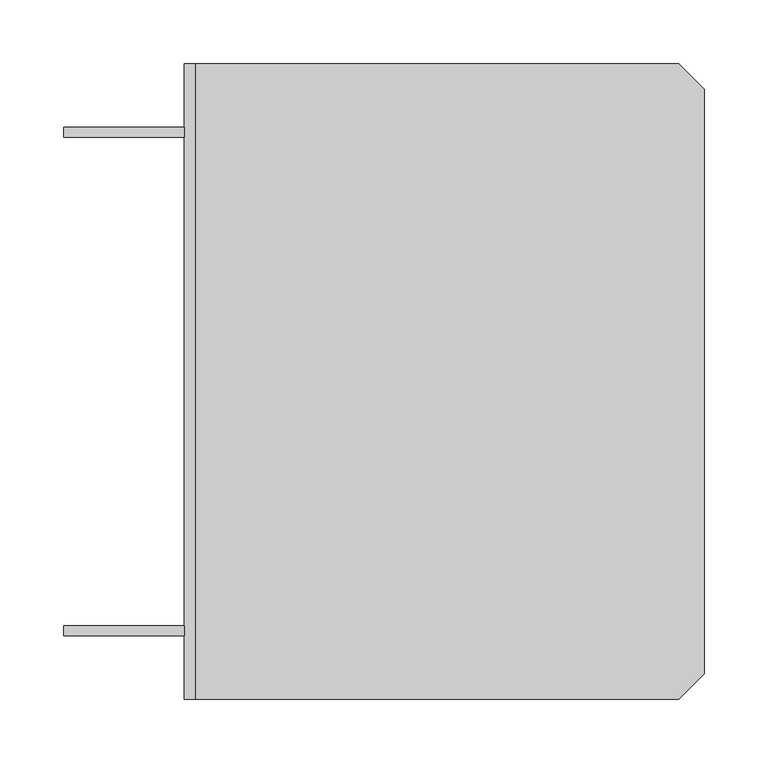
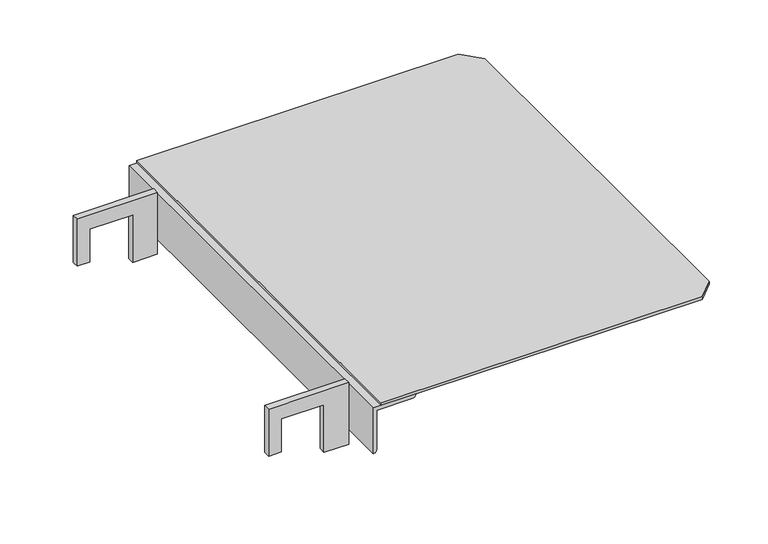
"""IFC4 building model written with IfcOpenShell, lengths in millimetres: proxy geometry, AK_補助布板HF-505_軽 : AK_補助布板HF-505_軽."""

from ifc_helpers import new_model, si_unit, point, frame, frame_2d, origin, place, context, project, spatial, polyline, circle_curve, trimmed, segment, composite_curve, outline, extrude, source, transform, mapped, element, save


def generic_models_287da4fc(model_context):
    return source(origin(), model_context, "Body", "SweptSolid", [
        extrude(outline(polyline([(39.5, -145.0), (-19.2539656, -145.0), (-19.2539656, -130.0), (22.0, -130.0), (22.0, -79.515185), (-37.4873278, -79.515185), (-37.4873278, -50.0), (39.5, -50.0), (39.5, -145.0)])), frame((0.0, 50.0, 0.0), z_axis=(0.0, 1.0, 0.0), x_axis=(0.0, 0.0, 1.0)), (0.0, 0.0, 1.0), 8.0),
        extrude(outline(polyline([(39.5, -145.0), (-19.2539656, -145.0), (-19.2539656, -130.0), (22.0, -130.0), (22.0, -79.515185), (-37.4873278, -79.515185), (-37.4873278, -50.0), (39.5, -50.0), (39.5, -145.0)])), frame((0.0, 442.0, 0.0), z_axis=(0.0, 1.0, 0.0), x_axis=(0.0, 0.0, 1.0)), (0.0, 0.0, 1.0), 8.0),
        extrude(outline(composite_curve([segment(polyline([(37.9, -50.0), (-19.2499, -50.0)]), True, "CONTINUOUS"), segment(trimmed(circle_curve(frame_2d((-15.2499, -50.0)), 4.0), [point((-19.2499, -50.0))], [point((-15.2499, -46.0))], False, "CARTESIAN"), True, "CONTINUOUS"), segment(polyline([(-15.2499, -46.0), (33.9, -46.0), (33.9, -4.0)]), True, "CONTINUOUS"), segment(trimmed(circle_curve(frame_2d((37.9, -4.0)), 4.0), [point((33.9, -4.0))], [point((37.9, 0.0))], False, "CARTESIAN"), True, "CONTINUOUS"), segment(polyline([(37.9, 0.0), (37.9, -50.0)]), True, "CONTINUOUS")], self_intersect=False)), frame((0.0, 0.0, 0.0), z_axis=(0.0, 1.0, 0.0), x_axis=(0.0, 0.0, 1.0)), (0.0, 0.0, 1.0), 500.0),
        extrude(outline(polyline([(-41.0, 500.0), (339.0, 500.0), (359.0, 480.0), (359.0, 20.0), (339.0, 0.0), (-41.0, 0.0), (-41.0, 500.0)])), frame((0.0, 0.0, 37.9), z_axis=(0.0, 0.0, 1.0), x_axis=(1.0, 0.0, 0.0)), (0.0, 0.0, 1.0), 3.2),
    ])


if __name__ == "__main__":
    model = new_model("IFC4")
    model_context = context("Model", 3, world=origin())
    ifc_project = project(units=[si_unit("LENGTHUNIT", "METRE", prefix="MILLI")], contexts=[model_context])
    site = spatial("IfcSite", under=ifc_project)
    building = spatial("IfcBuilding", under=site)
    placement = place(None, origin())
    generic_models_shape = generic_models_287da4fc(model_context)
    element("IfcBuildingElementProxy", 1, Name="AK_補助布板HF-505_軽 : AK_補助布板HF-505_軽", ObjectType="AK_補助布板HF-505_軽 : AK_補助布板HF-505_軽", at=placement, inside=building, context=model_context, shape_type="MappedRepresentation", body=[
        mapped(generic_models_shape, transform((0.0, 0.0, 0.0), x_axis=(1.0, 0.0, 0.0), y_axis=(0.0, 1.0, 0.0), z_axis=(0.0, 0.0, 1.0))),
    ])
    save(model, "model.ifc")
